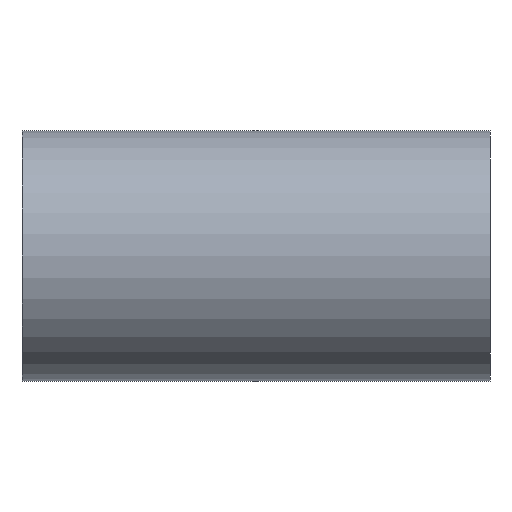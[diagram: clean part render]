
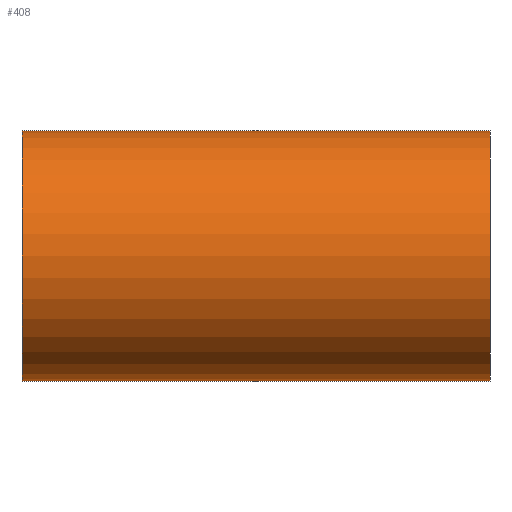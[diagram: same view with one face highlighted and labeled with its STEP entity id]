
A CAD part, front view. The second image highlights one B-rep face of the part: STEP entity #408.
In plain terms, the highlighted cylindrical face has radius 38 mm (diameter 76 mm), a full revolution.
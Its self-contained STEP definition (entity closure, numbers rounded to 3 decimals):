
#16=FACE_BOUND('',#102,.T.);
#17=FACE_BOUND('',#103,.T.);
#26=ELLIPSE('',#433,53.74,38.);
#27=ELLIPSE('',#434,53.74,38.);
#29=CYLINDRICAL_SURFACE('',#431,38.);
#75=FACE_OUTER_BOUND('',#101,.T.);
#101=EDGE_LOOP('',(#343));
#102=EDGE_LOOP('',(#344,#345));
#103=EDGE_LOOP('',(#346));
#124=CIRCLE('',#432,38.);
#125=CIRCLE('',#435,38.);
#195=VERTEX_POINT('',#19742);
#196=VERTEX_POINT('',#19744);
#197=VERTEX_POINT('',#19745);
#198=VERTEX_POINT('',#19748);
#253=EDGE_CURVE('',#195,#195,#124,.T.);
#254=EDGE_CURVE('',#196,#197,#26,.T.);
#255=EDGE_CURVE('',#197,#196,#27,.T.);
#256=EDGE_CURVE('',#198,#198,#125,.T.);
#343=ORIENTED_EDGE('',*,*,#253,.F.);
#344=ORIENTED_EDGE('',*,*,#254,.T.);
#345=ORIENTED_EDGE('',*,*,#255,.T.);
#346=ORIENTED_EDGE('',*,*,#256,.F.);
#408=ADVANCED_FACE('',(#75,#16,#17),#29,.T.);
#431=AXIS2_PLACEMENT_3D('',#19741,#483,#484);
#432=AXIS2_PLACEMENT_3D('',#19743,#485,#486);
#433=AXIS2_PLACEMENT_3D('',#19746,#487,#488);
#434=AXIS2_PLACEMENT_3D('',#19747,#489,#490);
#435=AXIS2_PLACEMENT_3D('',#19749,#491,#492);
#483=DIRECTION('center_axis',(1.,0.,0.));
#484=DIRECTION('ref_axis',(0.,-1.,0.));
#485=DIRECTION('center_axis',(-1.,0.,0.));
#486=DIRECTION('ref_axis',(0.,-1.,0.));
#487=DIRECTION('center_axis',(-0.707,-0.707,0.));
#488=DIRECTION('ref_axis',(0.707,-0.707,0.));
#489=DIRECTION('center_axis',(0.707,-0.707,0.));
#490=DIRECTION('ref_axis',(0.707,0.707,0.));
#491=DIRECTION('center_axis',(1.,0.,0.));
#492=DIRECTION('ref_axis',(0.,-1.,0.));
#19741=CARTESIAN_POINT('Origin',(0.,0.,0.));
#19742=CARTESIAN_POINT('',(-71.,38.,0.));
#19743=CARTESIAN_POINT('Origin',(-71.,0.,0.));
#19744=CARTESIAN_POINT('',(0.,0.,38.));
#19745=CARTESIAN_POINT('',(0.,0.,-38.));
#19746=CARTESIAN_POINT('Origin',(0.,0.,0.));
#19747=CARTESIAN_POINT('Origin',(0.,0.,0.));
#19748=CARTESIAN_POINT('',(71.,38.,0.));
#19749=CARTESIAN_POINT('Origin',(71.,0.,0.));
